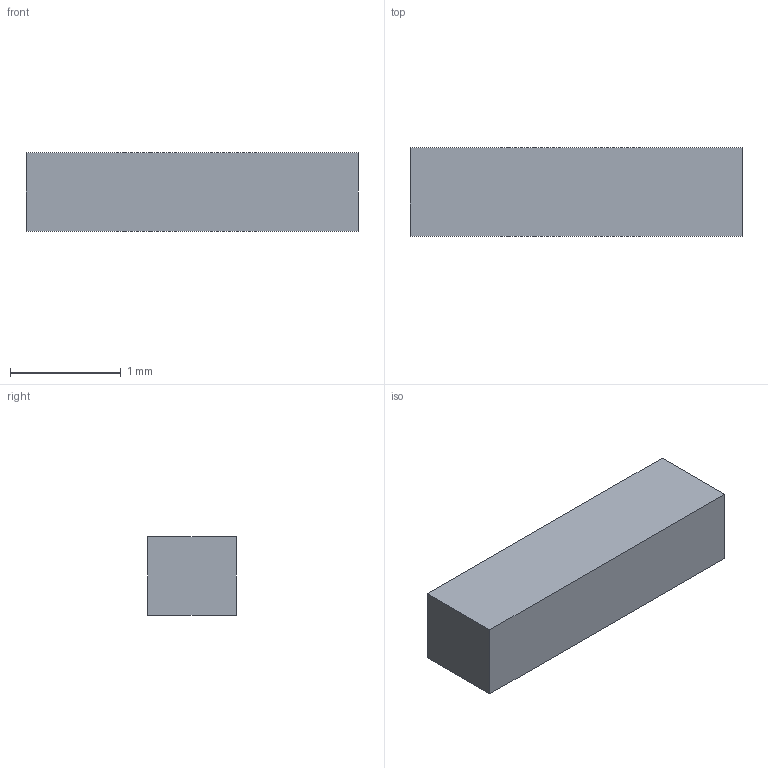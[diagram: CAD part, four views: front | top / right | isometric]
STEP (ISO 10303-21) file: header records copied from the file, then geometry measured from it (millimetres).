
FILE_DESCRIPTION(('Open CASCADE Model'),'2;1');
FILE_NAME('C27_R2_PCB_Rear_Preload_4','2026-09-09T17:52:57',('Author'),( 'Open CASCADE'),'Open CASCADE STEP processor 7.9','build123d', 'Unknown');
FILE_SCHEMA(('AUTOMOTIVE_DESIGN { 1 0 10303 214 1 1 1 1 }'));
Length unit declared in the file: millimetre
Products named in the file (1): C27_R2_PCB_Rear_Preload_4
Bounding box: 3 x 0.8 x 0.71 mm (x, y, z)
Volume: 1.7 mm3; surface area: 10.2 mm2
Topology: 1 solids, 1 shells, 6 faces, 12 edges, 8 vertices
Faces by surface type: plane 6
Entity records: 322 total; most frequent: CARTESIAN_POINT 51, DIRECTION 50, LINE 36, VECTOR 36, ORIENTED_EDGE 24, PCURVE 24, DEFINITIONAL_REPRESENTATION 24, EDGE_CURVE 12
